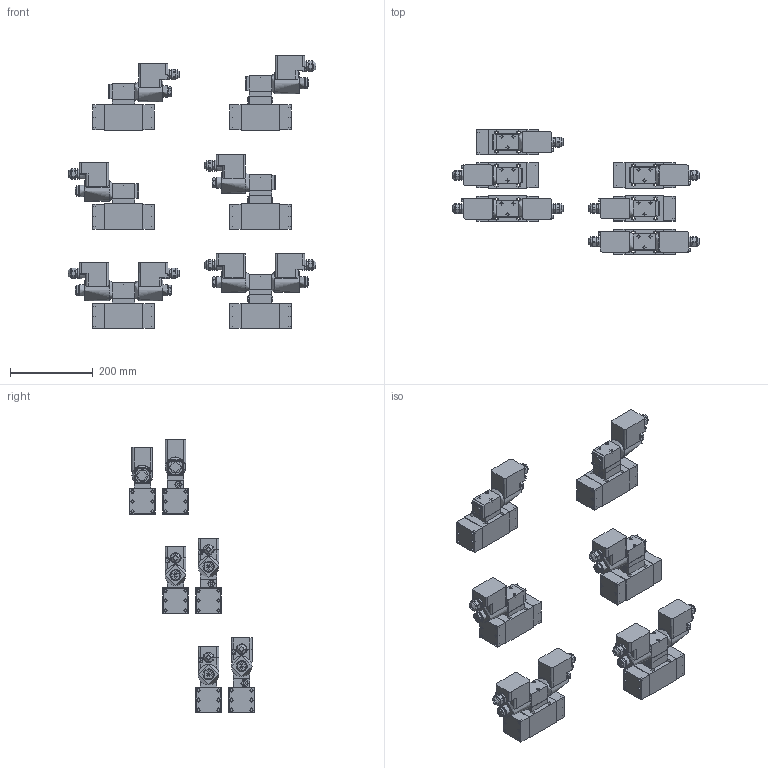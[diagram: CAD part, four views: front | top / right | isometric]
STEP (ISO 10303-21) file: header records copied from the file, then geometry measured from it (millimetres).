
FILE_DESCRIPTION(('Bauteilbeschreibung','HiCAD-Model','HiCAD-STEP-TRANSLATION','Bauteilbeschreibung'),'2;1');
FILE_NAME('D:/AEXVP4_10_-S1788.STP','2006-08-14T07:44:41+00:00',('Konstrukteur'),('Konstrukteur Firma GmbH'),'HiCAD3 V1210 STEP 1.6.2005','HiCAD3 V1210','confidential');
FILE_SCHEMA(('AUTOMOTIVE_DESIGN { 1 2 10303 214 0 1 1 1 }'));
Products named in the file (217): AEXVP4_10__S1788; AEXVP4D10__TE_PI_PE_S1788; A89681EC; AF3EE848; AEA327D9; AEA327D90; IN6KTM6; IN6KTM60; IN6KTM61; IN6KTM62; IN6KTM63; IN6KTM64; IN6KTM65; AEA327D91; AEA327D92; IN6KTM66; IN6KTM67; IN6KTM68; IN6KTM69; IN6KTM610; IN6KTM611; IN6KTM612; AC5B1702; AC5B17020; G1_8; G108; ABDE086D; BE591657; A5E16FAE; A2A59CA0; A2A59CA00; IN6KTM5; IN6KTM50; IN6KTM51; IN6KTM52; AEXVP4D10__TI_S1788; AA6D051F; AF3EE8480; AEA327D93; AEA327D94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
Assembly tree (216 placements, depth 7):
  AEXVP4_10__S1788
    AEXVP4D10__TE_PI_PE_S1788
      A89681EC
        AF3EE848
        AEA327D9
        AEA327D90
          IN6KTM6
            IN6KTM60
            IN6KTM61
            IN6KTM62
            IN6KTM63
            IN6KTM64
            IN6KTM65
        AEA327D91
        AEA327D92
          IN6KTM66
            IN6KTM67
            IN6KTM68
            IN6KTM69
            IN6KTM610
            IN6KTM611
            IN6KTM612
        AC5B1702
        AC5B17020
          G1_8
          G108
        ABDE086D
        BE591657
          A5E16FAE
          A2A59CA0
          A2A59CA00
        IN6KTM5
          IN6KTM50
          IN6KTM51
          IN6KTM52
    AEXVP4D10__TI_S1788
      AA6D051F
        AF3EE8480
        AEA327D93
        AEA327D94
          IN6KTM613
            IN6KTM614
            IN6KTM615
            IN6KTM616
            IN6KTM617
            IN6KTM618
            IN6KTM619
        AEA327D95
        AEA327D96
          IN6KTM620
            IN6KTM621
            IN6KTM622
            IN6KTM623
            IN6KTM624
            IN6KTM625
            IN6KTM626
        ABDE086D0
        BE5916570
          A5E16FAE0
          A2A59CA01
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Bounding box: 598 x 302 x 661 mm (x, y, z)
Topology: 157 solids, 165 shells, 3179 faces, 7240 edges, 4913 vertices
Faces by surface type: plane 2144, cylinder 863, cone 164, torus 8
Full cylindrical faces by diameter (mm): 4 x48, 4.5 x16, 5 x18, 5.5 x45, 6 x72, 6.5 x96, 7 x24, 8.5 x56, 8.7 x12, 9.5 x18, 10 x72, 10.5 x96, 10.7 x6, 11 x8, 12.5 x8, 14 x6, 17 x36, 18 x14, 19 x8, 22 x8, 24 x8, 27 x8, 30 x4, 47.6 x8, 50 x8
Entity records: 154276 total; most frequent: CARTESIAN_POINT 24539, DIRECTION 15046, ORIENTED_EDGE 12156, COLOUR_RGB 9414, PRESENTATION_STYLE_ASSIGNMENT 9414, OVER_RIDING_STYLED_ITEM 9257, CURVE_STYLE 6078, DRAUGHTING_PRE_DEFINED_CURVE_FONT 6078
